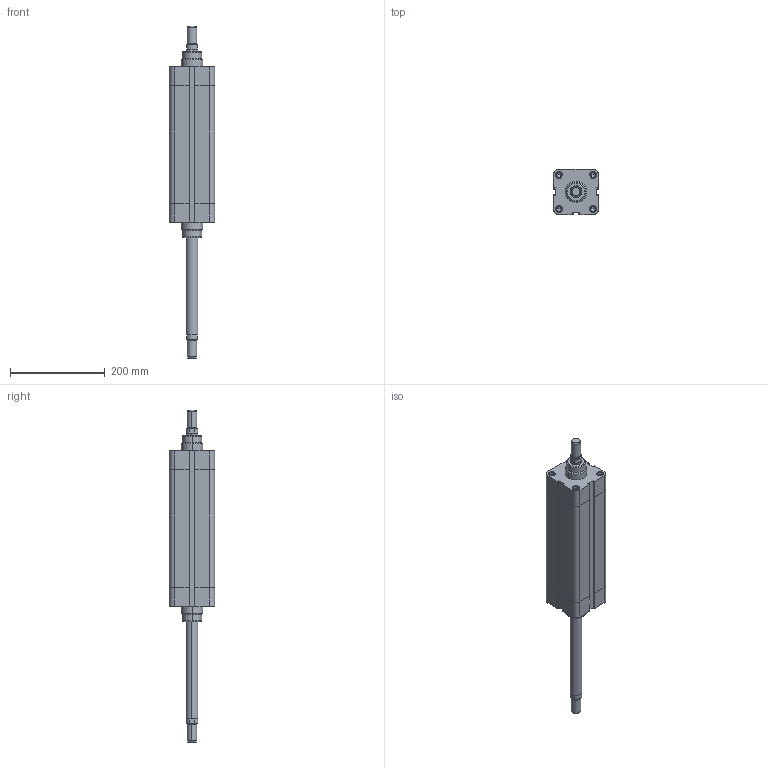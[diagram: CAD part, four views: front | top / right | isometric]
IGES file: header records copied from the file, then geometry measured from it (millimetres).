
Global section: file name: No Iges File Name specified; native system: AutoDesk Inventor R6.1; preprocessor: AutoDesk Inventor Iges Exporter R6.1; author: No Author specified; organization: No Organization specified; date: 20040107.171237; units: millimetre
Bounding box: 95.5 x 95.5 x 700 mm (x, y, z)
Volume: 3084030.2 mm3; surface area: 256431.1 mm2
Topology: 2 solids, 2 shells, 236 faces, 564 edges, 356 vertices
Faces by surface type: plane 80, bspline 62, cylinder 42, revolution 32, cone 16, torus 4
